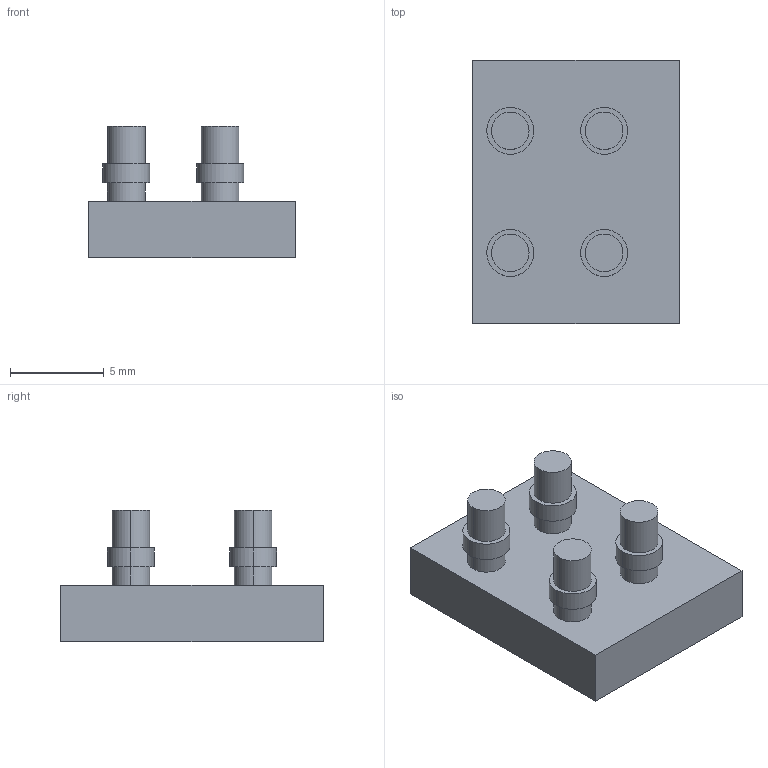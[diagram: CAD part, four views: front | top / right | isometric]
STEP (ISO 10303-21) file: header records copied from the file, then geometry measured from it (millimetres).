
FILE_DESCRIPTION (( 'STEP AP203' ), '1' );
FILE_NAME ('SIL-14G.STEP', '2023-10-16T05:50:05', ( '微软用户' ), ( '微软中国' ), 'SwSTEP 2.0', 'SolidWorks 2019', '' );
FILE_SCHEMA (( 'CONFIG_CONTROL_DESIGN' ));
Length unit declared in the file: millimetre
Products named in the file (1): SIL-14G
Bounding box: 11 x 14 x 7 mm (x, y, z)
Volume: 519.3 mm3; surface area: 579 mm2
Topology: 1 solids, 1 shells, 42 faces, 84 edges, 56 vertices
Faces by surface type: cylinder 24, plane 18
Entity records: 1193 total; most frequent: DIRECTION 218, CARTESIAN_POINT 183, ORIENTED_EDGE 168, AXIS2_PLACEMENT_3D 91, EDGE_CURVE 84, VERTEX_POINT 56, EDGE_LOOP 54, CIRCLE 48
